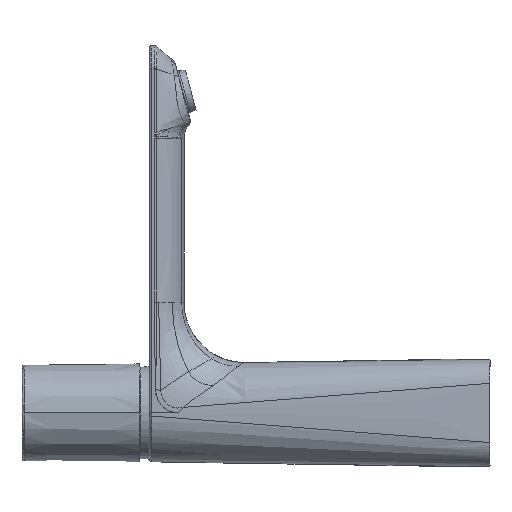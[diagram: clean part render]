
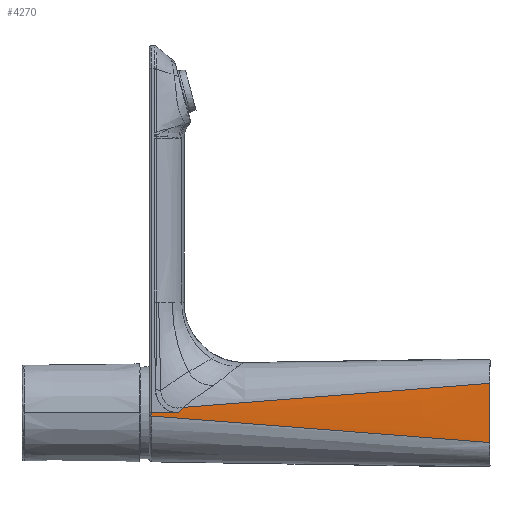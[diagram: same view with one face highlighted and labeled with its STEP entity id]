
A CAD part, left-side view. The second image highlights one B-rep face of the part: STEP entity #4270.
In plain terms, the highlighted free-form (B-spline) face has degree [5, 5] with [6, 8] control points.
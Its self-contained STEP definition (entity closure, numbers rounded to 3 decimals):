
#22=CARTESIAN_POINT('',(-23.102,0.,12.806));
#108=CARTESIAN_POINT('',(-23.102,0.,-12.806));
#126=CARTESIAN_POINT('',(-23.102,0.,12.806));
#127=CARTESIAN_POINT('',(-23.117,0.,12.574));
#128=CARTESIAN_POINT('',(-23.151,0.,12.016));
#129=CARTESIAN_POINT('',(-23.213,0.,10.902));
#130=CARTESIAN_POINT('',(-23.281,0.,9.528));
#131=CARTESIAN_POINT('',(-23.372,0.,7.388));
#132=CARTESIAN_POINT('',(-23.469,0.,4.222));
#133=CARTESIAN_POINT('',(-23.515,0.,0.));
#134=CARTESIAN_POINT('',(-23.471,0.,-4.222));
#135=CARTESIAN_POINT('',(-23.373,0.,-7.388));
#136=CARTESIAN_POINT('',(-23.281,0.,-9.529));
#137=CARTESIAN_POINT('',(-23.212,0.,-10.902));
#138=CARTESIAN_POINT('',(-23.15,0.,-12.016));
#139=CARTESIAN_POINT('',(-23.117,0.,-12.574));
#140=CARTESIAN_POINT('',(-23.102,0.,-12.806));
#276=CARTESIAN_POINT('',(-21.36,132.866,2.412));
#336=CARTESIAN_POINT('',(-21.36,132.866,2.412));
#337=CARTESIAN_POINT('',(-21.367,133.045,2.222));
#338=CARTESIAN_POINT('',(-21.379,133.4,1.84));
#339=CARTESIAN_POINT('',(-21.389,133.848,1.368));
#340=CARTESIAN_POINT('',(-21.395,134.206,0.984));
#341=CARTESIAN_POINT('',(-21.397,134.422,0.741));
#342=CARTESIAN_POINT('',(-21.398,134.582,0.537));
#343=CARTESIAN_POINT('',(-21.398,134.692,0.374));
#344=CARTESIAN_POINT('',(-21.398,134.779,0.196));
#345=CARTESIAN_POINT('',(-21.398,134.802,0.065));
#346=CARTESIAN_POINT('',(-21.398,134.801,
0.));
#374=DIRECTION('',(0.016,1.,0.));
#375=VECTOR('',#374,11.716);
#376=CARTESIAN_POINT('',(-21.398,134.801,
0.));
#377=LINE('',#376,#375);
#448=CARTESIAN_POINT('',(-21.215,146.516,0.));
#449=CARTESIAN_POINT('',(-21.215,146.516,
-0.157));
#450=CARTESIAN_POINT('',(-21.212,146.516,
-0.451));
#451=CARTESIAN_POINT('',(-21.202,146.516,
-0.864));
#452=CARTESIAN_POINT('',(-21.189,146.517,-1.184));
#453=CARTESIAN_POINT('',(-21.181,146.517,-1.344));
#455=DIRECTION('',(0.013,0.997,-0.078));
#456=VECTOR('',#455,133.283);
#457=CARTESIAN_POINT('',(-23.102,0.,12.806));
#458=LINE('',#457,#456);
#524=DIRECTION('',(0.013,0.997,0.078));
#525=VECTOR('',#524,146.977);
#526=CARTESIAN_POINT('',(-23.102,0.,-12.806));
#527=LINE('',#526,#525);
#3267=VERTEX_POINT('',#276);
#3276=VERTEX_POINT('',#346);
#3294=VERTEX_POINT('',#22);
#3300=VERTEX_POINT('',#108);
#3405=VERTEX_POINT('',#448);
#3406=VERTEX_POINT('',#453);
#4211=CARTESIAN_POINT('',(-23.117,-1.465,
-12.995));
#4212=CARTESIAN_POINT('',(-23.152,-1.465,
-12.446));
#4213=CARTESIAN_POINT('',(-23.242,-1.465,
-10.886));
#4214=CARTESIAN_POINT('',(-23.519,-1.465,
-5.875));
#4215=CARTESIAN_POINT('',(-23.675,-1.465,
1.996));
#4216=CARTESIAN_POINT('',(-23.363,-1.465,
8.892));
#4217=CARTESIAN_POINT('',(-23.185,-1.465,
11.912));
#4218=CARTESIAN_POINT('',(-23.117,-1.465,
12.996));
#4219=CARTESIAN_POINT('',(-22.726,28.424,
-10.647));
#4220=CARTESIAN_POINT('',(-22.755,28.424,
-10.17));
#4221=CARTESIAN_POINT('',(-22.831,28.424,
-8.854));
#4222=CARTESIAN_POINT('',(-23.054,28.424,
-4.742));
#4223=CARTESIAN_POINT('',(-23.179,28.424,1.611));
#4224=CARTESIAN_POINT('',(-22.929,28.424,7.2));
#4225=CARTESIAN_POINT('',(-22.784,28.424,9.706));
#4226=CARTESIAN_POINT('',(-22.726,28.424,10.648));
#4227=CARTESIAN_POINT('',(-22.334,58.314,
-8.299));
#4228=CARTESIAN_POINT('',(-22.359,58.314,
-7.893));
#4229=CARTESIAN_POINT('',(-22.419,58.314,
-6.823));
#4230=CARTESIAN_POINT('',(-22.589,58.314,
-3.609));
#4231=CARTESIAN_POINT('',(-22.683,58.314,1.226));
#4232=CARTESIAN_POINT('',(-22.495,58.314,5.509));
#4233=CARTESIAN_POINT('',(-22.383,58.314,7.499));
#4234=CARTESIAN_POINT('',(-22.334,58.314,8.299));
#4235=CARTESIAN_POINT('',(-21.943,88.203,
-5.951));
#4236=CARTESIAN_POINT('',(-21.963,88.203,
-5.617));
#4237=CARTESIAN_POINT('',(-22.008,88.203,
-4.791));
#4238=CARTESIAN_POINT('',(-22.124,88.203,
-2.476));
#4239=CARTESIAN_POINT('',(-22.186,88.203,
0.841));
#4240=CARTESIAN_POINT('',(-22.06,88.203,3.817));
#4241=CARTESIAN_POINT('',(-21.982,88.203,5.292));
#4242=CARTESIAN_POINT('',(-21.943,88.203,5.951));
#4243=CARTESIAN_POINT('',(-21.551,118.093,
-3.603));
#4244=CARTESIAN_POINT('',(-21.566,118.093,
-3.34));
#4245=CARTESIAN_POINT('',(-21.596,118.093,
-2.759));
#4246=CARTESIAN_POINT('',(-21.659,118.093,
-1.343));
#4247=CARTESIAN_POINT('',(-21.69,118.093,
0.456));
#4248=CARTESIAN_POINT('',(-21.626,118.093,2.125));
#4249=CARTESIAN_POINT('',(-21.581,118.093,3.085));
#4250=CARTESIAN_POINT('',(-21.551,118.093,3.603));
#4251=CARTESIAN_POINT('',(-21.16,147.982,
-1.254));
#4252=CARTESIAN_POINT('',(-21.17,147.982,
-1.064));
#4253=CARTESIAN_POINT('',(-21.184,147.982,
-0.727));
#4254=CARTESIAN_POINT('',(-21.194,147.982,
-0.21));
#4255=CARTESIAN_POINT('',(-21.194,147.982,
0.071));
#4256=CARTESIAN_POINT('',(-21.192,147.982,
0.433));
#4257=CARTESIAN_POINT('',(-21.18,147.982,
0.879));
#4258=CARTESIAN_POINT('',(-21.16,147.982,1.255));
#4259=B_SPLINE_SURFACE_WITH_KNOTS('',5,5,((#4211,#4212,#4213,#4214,#4215,#4216,
#4217,#4218),(#4219,#4220,#4221,#4222,#4223,#4224,#4225,#4226),(#4227,#4228,
#4229,#4230,#4231,#4232,#4233,#4234),(#4235,#4236,#4237,#4238,#4239,#4240,#4241,
#4242),(#4243,#4244,#4245,#4246,#4247,#4248,#4249,#4250),(#4251,#4252,#4253,
#4254,#4255,#4256,#4257,#4258)),.UNSPECIFIED.,.F.,.F.,.F.,(6,6),(6,1,1,6),(
-0.01,1.003),(0.913,0.935,
0.957,1.001),.UNSPECIFIED.);
#4261=ORIENTED_EDGE('',*,*,#4260,.F.);
#4262=ORIENTED_EDGE('',*,*,#4186,.F.);
#4263=ORIENTED_EDGE('',*,*,#4099,.F.);
#4264=ORIENTED_EDGE('',*,*,#3572,.F.);
#4265=ORIENTED_EDGE('',*,*,#3603,.T.);
#4267=ORIENTED_EDGE('',*,*,#4266,.T.);
#4268=EDGE_LOOP('',(#4261,#4262,#4263,#4264,#4265,#4267));
#4269=FACE_OUTER_BOUND('',#4268,.F.);
#4270=ADVANCED_FACE('',(#4269),#4259,.F.);
#141=B_SPLINE_CURVE_WITH_KNOTS('',3,(#126,#127,#128,#129,#130,#131,#132,#133,
#134,#135,#136,#137,#138,#139,#140),.UNSPECIFIED.,.F.,.F.,(4,1,1,1,1,1,1,1,1,1,
1,1,4),(0.,0.063,0.125,0.188,
0.25,0.375,0.5,0.625,
0.75,0.812,0.875,0.937,1.),
.UNSPECIFIED.);
#347=B_SPLINE_CURVE_WITH_KNOTS('',3,(#336,#337,#338,#339,#340,#341,#342,#343,
#344,#345,#346),.UNSPECIFIED.,.F.,.F.,(4,1,1,1,1,1,1,1,4),(0.,
0.25,0.5,0.625,0.75,
0.813,0.875,0.938,1.),.UNSPECIFIED.);
#454=B_SPLINE_CURVE_WITH_KNOTS('',3,(#448,#449,#450,#451,#452,#453),
.UNSPECIFIED.,.F.,.F.,(4,1,1,4),(0.,0.333,0.667,1.),
.UNSPECIFIED.);
#3572=EDGE_CURVE('',#3294,#3267,#458,.T.);
#3603=EDGE_CURVE('',#3294,#3300,#141,.T.);
#4099=EDGE_CURVE('',#3267,#3276,#347,.T.);
#4186=EDGE_CURVE('',#3276,#3405,#377,.T.);
#4260=EDGE_CURVE('',#3405,#3406,#454,.T.);
#4266=EDGE_CURVE('',#3300,#3406,#527,.T.);
